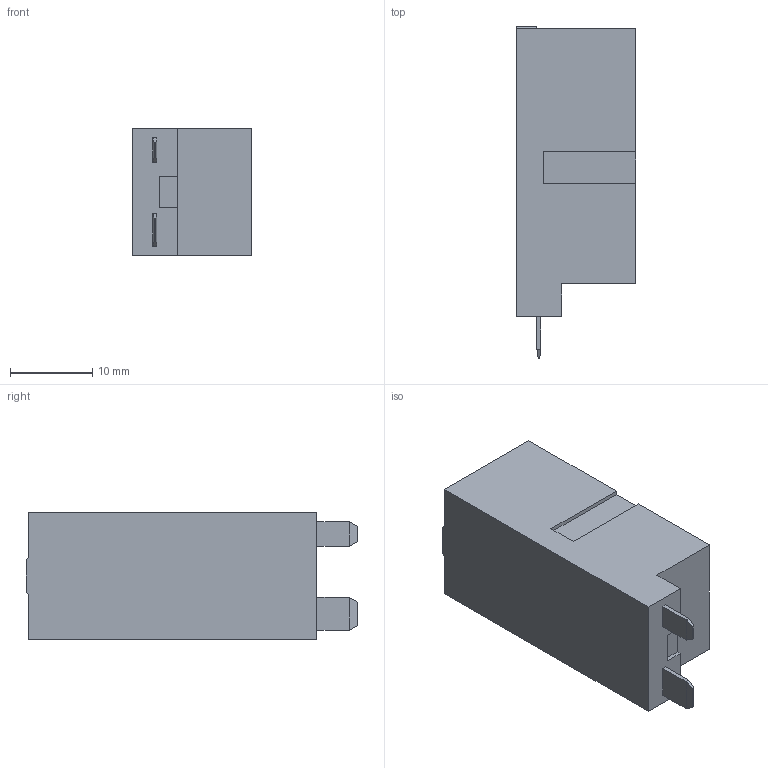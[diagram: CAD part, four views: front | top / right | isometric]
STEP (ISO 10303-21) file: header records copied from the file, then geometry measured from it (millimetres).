
FILE_DESCRIPTION(('STEP AP214'),'2;1');
FILE_NAME('99.01 RCFS-catalogo.stp','2010-11-30T11:36:46',(''),(''),'2007.1.106','THINKDESIGN','');
FILE_SCHEMA(('AUTOMOTIVE_DESIGN'));
Length unit declared in the file: millimetre
Products named in the file (1): None
Bounding box: 14.5 x 40.3 x 15.5 mm (x, y, z)
Surface area: 2580.2 mm2 (no closed solid volume)
Topology: 0 solids, 0 shells, 42 faces, 212 edges, 212 vertices
Faces by surface type: plane 42
Entity records: 2175 total; most frequent: CARTESIAN_POINT 466, DIRECTION 296, VECTOR 212, LINE 212, TRIMMED_CURVE 212, COMPOSITE_CURVE_SEGMENT 212, AXIS2_PLACEMENT_3D 42, PLANE 42
